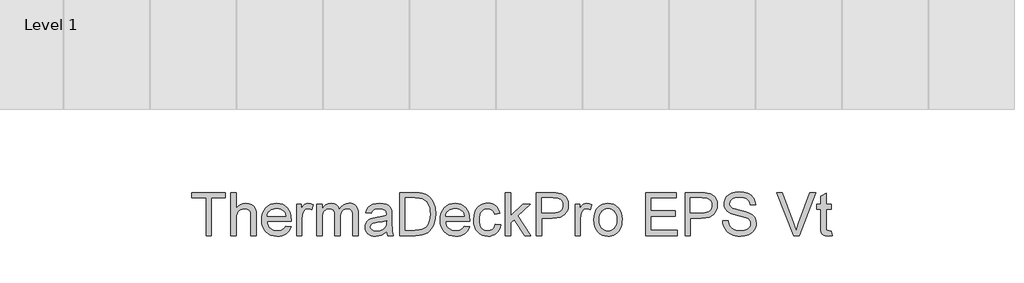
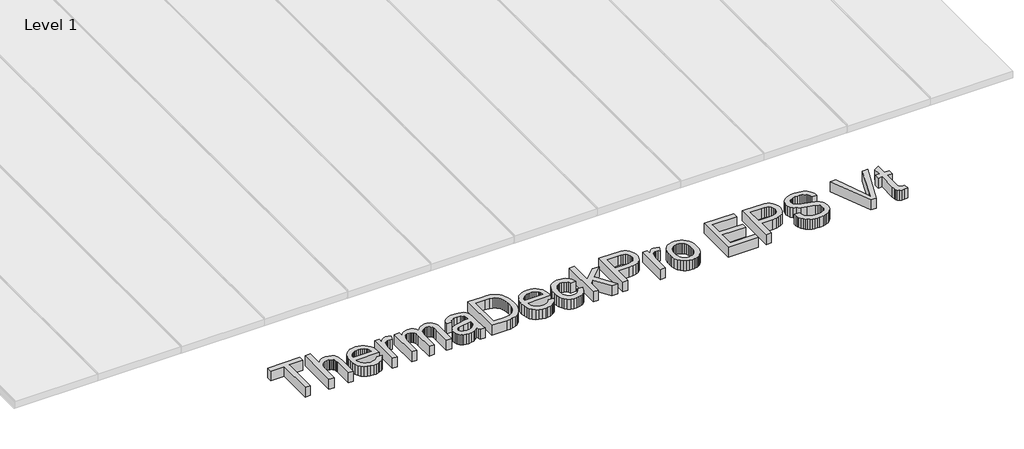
# One storey, part 27 of 27: 1 proxy.
"""IFC4 building model written with IfcOpenShell, lengths in millimetres."""

import ifcopenshell
import ifcopenshell.guid

model = None  # the IFC model being written
_history = None  # IfcOwnerHistory: only IFC2X3 demands one
_inside = {}  # id of a spatial element -> (the spatial element, [elements in it])
_under = {}  # id of a project, library or spatial element -> (it, [spatial elements below it])
_declared = {}  # id of a project -> (the project, [libraries it declares])
_typed = {}  # id of a type object -> (the type object, [elements of that type])
_made_of = {}  # id of a material, layer set ... -> (it, [elements and type objects made of it])


def new_model(schema):
    """Start an empty IFC model of exactly this schema.

    Asked for "IFC4X3", IfcOpenShell would pick the latest addendum, in which some entities
    have other attributes; the version numbers below select the first issue.
    IFC2X3 requires an IfcOwnerHistory on every rooted entity: one is made here for all.
    """
    global model, _history
    if schema == "IFC4X3":
        model = ifcopenshell.file(schema_version=(4, 3, 0, 0))
    else:
        model = ifcopenshell.file(schema=schema)
    _inside.clear()
    _under.clear()
    _declared.clear()
    _typed.clear()
    _made_of.clear()
    _history = None
    if model.schema == "IFC2X3":
        org = make("IfcOrganization", Name="unknown")
        user = make(
            "IfcPersonAndOrganization",
            ThePerson=make("IfcPerson", FamilyName="unknown"),
            TheOrganization=org,
        )
        app = make(
            "IfcApplication",
            ApplicationDeveloper=org,
            Version="unknown",
            ApplicationFullName="unknown",
            ApplicationIdentifier="unknown",
        )
        _history = make(
            "IfcOwnerHistory",
            OwningUser=user,
            OwningApplication=app,
            ChangeAction="ADDED",
            CreationDate=0,
        )
    return model


def make(cls, **values):
    """One entity of the class cls with the attributes given. An attribute that is None is left unset."""
    return model.create_entity(
        cls, **{name: value for name, value in values.items() if value is not None}
    )


def rooted(cls, **values):
    """An entity with a GlobalId (a new one), such as an element, a storey or a relation."""
    return make(cls, GlobalId=ifcopenshell.guid.new(), OwnerHistory=_history, **values)


def si_unit(unit_type, name, prefix=None):
    """IfcSIUnit, for example si_unit("LENGTHUNIT", "METRE", prefix="MILLI")."""
    return make("IfcSIUnit", UnitType=unit_type, Prefix=prefix, Name=name)


def assignment(units):
    """IfcUnitAssignment: the units of a project."""
    return None if units is None else make("IfcUnitAssignment", Units=units)


def point(xyz):
    """IfcCartesianPoint."""
    return None if xyz is None else make("IfcCartesianPoint", Coordinates=xyz)


def direction(xyz):
    """IfcDirection."""
    return None if xyz is None else make("IfcDirection", DirectionRatios=xyz)


def frame(location, z_axis=None, x_axis=None):
    """IfcAxis2Placement3D, a coordinate frame: its origin and axes. An axis left out is left unset."""
    return make(
        "IfcAxis2Placement3D",
        Location=point(location),
        Axis=direction(z_axis),
        RefDirection=direction(x_axis),
    )


def origin():
    """The frame at (0, 0, 0) with its axes left unset."""
    return frame((0.0, 0.0, 0.0))


def origin_with_axes():
    """The frame at (0, 0, 0) with the z axis (0, 0, 1) and the x axis (1, 0, 0) written out."""
    return frame((0.0, 0.0, 0.0), z_axis=(0.0, 0.0, 1.0), x_axis=(1.0, 0.0, 0.0))


def place(relative_to, where):
    """IfcLocalPlacement: puts the frame where relative to a parent placement (None: the world)."""
    return make(
        "IfcLocalPlacement", PlacementRelTo=relative_to, RelativePlacement=where
    )


def context(
    kind, dimensions, precision=None, world=None, true_north=None, identifier=None
):
    """IfcGeometricRepresentationContext, for example the 3D "Model" context."""
    return make(
        "IfcGeometricRepresentationContext",
        ContextIdentifier=identifier,
        ContextType=kind,
        CoordinateSpaceDimension=dimensions,
        Precision=precision,
        WorldCoordinateSystem=world,
        TrueNorth=true_north,
    )


def project(units=None, contexts=None):
    """IfcProject with its units and contexts."""
    return rooted(
        "IfcProject",
        Name="project",
        RepresentationContexts=contexts,
        UnitsInContext=assignment(units),
    )


def spatial(cls, under=None, at=None, **own):
    """A site, building, storey or space (cls), placed at a placement, below another one or the project."""
    s = rooted(cls, ObjectPlacement=at, **own)
    if under is not None:
        _under.setdefault(under.id(), (under, []))[1].append(s)
    return s


def polyline(points):
    """IfcPolyline through the points."""
    return make("IfcPolyline", Points=[point(p) for p in points])


def outline(outer, holes=None, kind="AREA"):
    """IfcArbitraryClosedProfileDef: a profile drawn as a closed curve; with holes, ...WithVoids."""
    if holes is None:
        return make("IfcArbitraryClosedProfileDef", ProfileType=kind, OuterCurve=outer)
    return make(
        "IfcArbitraryProfileDefWithVoids",
        ProfileType=kind,
        OuterCurve=outer,
        InnerCurves=holes,
    )


def extrude(swept, where, along, depth):
    """IfcExtrudedAreaSolid: the profile swept, set in the frame where, extruded along a direction by depth."""
    return make(
        "IfcExtrudedAreaSolid",
        SweptArea=swept,
        Position=where,
        ExtrudedDirection=direction(along),
        Depth=depth,
    )


def shape(context_of_items, identifier, shape_type, items):
    """IfcShapeRepresentation: the items that make up one representation, for example the "Body"."""
    return make(
        "IfcShapeRepresentation",
        ContextOfItems=context_of_items,
        RepresentationIdentifier=identifier,
        RepresentationType=shape_type,
        Items=items,
    )


def made_of(thing, what):
    """Note that an element or type object is made of a material, layer set ...; save() writes the relation."""
    if what is not None:
        _made_of.setdefault(what.id(), (what, []))[1].append(thing)
    return thing


def element(
    cls,
    number,
    at=None,
    inside=None,
    cuts=None,
    type_object=None,
    material=None,
    context=None,
    identifier="Body",
    shape_type=None,
    held_by="IfcProductDefinitionShape",
    body=None,
    shapes=None,
    **own,
):
    """One element of the class cls, such as IfcWall. Its Tag is "e" and its number.

    at: its placement. inside: the storey or other place that contains it. cuts: it is an
    opening in that element (IfcRelVoidsElement). A single representation is given by context,
    identifier, shape_type and body (its items); several are given by shapes. held_by: the class
    of the entity that holds the representations. save() writes the other relations.
    """
    e = rooted(cls, Tag="e%d" % number, ObjectPlacement=at, **own)
    if body is not None:
        shapes = [shape(context, identifier, shape_type, body)]
    if shapes is not None:
        e.Representation = make(held_by, Representations=shapes)
    if inside is not None:
        _inside.setdefault(inside.id(), (inside, []))[1].append(e)
    if cuts is not None:
        rooted(
            "IfcRelVoidsElement", RelatingBuildingElement=cuts, RelatedOpeningElement=e
        )
    if type_object is not None:
        _typed.setdefault(type_object.id(), (type_object, []))[1].append(e)
    return made_of(e, material)


def aggregate(whole, parts):
    """IfcRelAggregates: a whole, such as a stair, and the parts it consists of."""
    return rooted("IfcRelAggregates", RelatingObject=whole, RelatedObjects=parts)


def save(model, path):
    """Write the relations noted so far, then the file.

    IfcRelAggregates (storeys below a building ...), IfcRelContainedInSpatialStructure (elements
    in a storey), IfcRelDefinesByType, IfcRelAssociatesMaterial and IfcRelDeclares: one each for
    every whole, place, type object, material and project.
    """
    for whole, parts in _under.values():
        aggregate(whole, parts)
    for where, things in _inside.values():
        rooted(
            "IfcRelContainedInSpatialStructure",
            RelatedElements=things,
            RelatingStructure=where,
        )
    for kind, things in _typed.values():
        rooted("IfcRelDefinesByType", RelatedObjects=things, RelatingType=kind)
    for what, things in _made_of.values():
        rooted("IfcRelAssociatesMaterial", RelatedObjects=things, RelatingMaterial=what)
    for by, libraries in _declared.values():
        rooted("IfcRelDeclares", RelatingContext=by, RelatedDefinitions=libraries)
    model.write(path)


model = new_model("IFC4")

# Units and contexts
model_context = context("Model", 3, world=origin())
ifc_project = project(units=[si_unit("LENGTHUNIT", "METRE", prefix="MILLI")], contexts=[model_context])

# Site, building, storey
site = spatial("IfcSite", under=ifc_project)
building = spatial("IfcBuilding", under=site)
storey = spatial("IfcBuildingStorey", under=building, Name="Level 1", Elevation=0.0)

# Proxy
placement = place(None, origin())
element("IfcBuildingElementProxy", 1, Name="600mm Arial", ObjectType="600mm Arial", at=placement, inside=storey, context=model_context, shape_type="SweptSolid", body=[
    extrude(outline(polyline([(67474.77699, -15088.4076888), (67474.77699, -14571.4846119), (67280.9308362, -14571.4846119), (67280.9308362, -14497.6384581), (67742.4692977, -14497.6384581), (67742.4692977, -14571.4846119), (67548.6231439, -14571.4846119), (67548.6231439, -15088.4076888), (67474.77699, -15088.4076888)])), origin_with_axes(), (0.0, 0.0, 1.0), 150.0),
    extrude(outline(polyline([(67816.3154516, -15088.4076888), (67816.3154516, -14497.6384581), (67890.1616054, -14497.6384581), (67890.1616054, -14714.8499965), (67917.2860045, -14684.4353331), (67947.74574, -14662.7105734), (67981.5408122, -14649.6757177), (68018.6712208, -14645.3307657), (68063.2745862, -14650.0723523), (68101.6039131, -14664.2971119), (68131.7842016, -14686.8872561), (68151.9404516, -14716.7249965), (68163.2986247, -14757.7225927), (68167.0846824, -14813.7923042), (68167.0846824, -15088.4076888), (68093.2385285, -15088.4076888), (68093.2385285, -14821.436535), (68091.7691775, -14796.5026407), (68087.3611247, -14775.2105734), (68080.0143699, -14757.5603331), (68069.7289131, -14743.5519196), (68056.7481439, -14732.8878571), (68041.3154516, -14725.2706696), (68023.4308362, -14720.7003571), (68003.0942977, -14719.1769196), (67971.886365, -14723.2874965), (67942.58949, -14735.6192273), (67918.3226631, -14754.9822081), (67902.2048747, -14780.186535), (67893.1724227, -14813.6841311), (67890.1616054, -14857.9269196), (67890.1616054, -15088.4076888), (67816.3154516, -15088.4076888)])), origin_with_axes(), (0.0, 0.0, 1.0), 150.0),
    extrude(outline(polyline([(68572.3731439, -14959.1769196), (68644.77699, -14968.4076888), (68633.675728, -14997.4070879), (68618.6892497, -15022.9629773), (68599.8175549, -15045.0753571), (68577.0606439, -15063.7442273), (68550.6528915, -15078.5729532), (68520.8286727, -15089.1649004), (68487.5879876, -15095.5200686), (68450.9308362, -15097.6384581), (68405.1105237, -15093.9831095), (68364.2842016, -15083.0170638), (68328.4518699, -15064.740321), (68297.6135285, -15039.1528811), (68272.8148506, -15006.9668835), (68255.1015093, -14968.8944677), (68244.4735045, -14924.9356335), (68240.9308362, -14875.0903811), (68244.5095622, -14823.5549244), (68255.24574, -14778.1312465), (68273.1393699, -14738.8193475), (68298.1904516, -14705.6192273), (68328.9476631, -14679.2430254), (68363.9596824, -14660.4028811), (68403.2265093, -14649.0987946), (68446.7481439, -14645.3307657), (68488.8680357, -14649.0897802), (68526.9584804, -14660.3668234), (68561.019478, -14679.1618956), (68591.0510285, -14705.4749965), (68615.5657521, -14738.6030013), (68633.0762689, -14777.842785), (68643.582579, -14823.1943475), (68647.0846824, -14874.6576888), (68646.65199, -14894.561535), (68314.77699, -14894.561535), (68319.0543338, -14924.029684), (68327.559442, -14949.8379773), (68340.2923146, -14971.9864148), (68357.2529516, -14990.4749965), (68377.503853, -15005.0513186), (68400.1075189, -15015.4629773), (68425.0639492, -15021.7099725), (68452.3731439, -15023.7923042), (68491.6760285, -15019.9341311), (68524.77699, -15008.3596119), (68551.6760285, -14988.3475927), (68572.3731439, -14959.1769196)]), holes=[polyline([(68314.77699, -14820.7153811), (68573.2385285, -14820.7153811), (68563.2505477, -14781.7009581), (68554.6598025, -14766.35841), (68543.6712208, -14753.7923042), (68523.5329997, -14738.6480734), (68500.6183362, -14727.8307657), (68474.9272304, -14721.3403811), (68446.4596824, -14719.1769196), (68420.4936367, -14720.9031816), (68396.6820381, -14726.0819677), (68375.0248867, -14734.7132778), (68355.5221824, -14746.7971119), (68339.1564973, -14761.7745758), (68326.9104035, -14779.0867754), (68318.7839011, -14798.7337105), (68314.77699, -14820.7153811)])]), origin_with_axes(), (0.0, 0.0, 1.0), 150.0),
    extrude(outline(polyline([(68720.9308362, -15088.4076888), (68720.9308362, -14654.561535), (68785.5462208, -14654.561535), (68785.5462208, -14718.7442273), (68809.4164131, -14681.5326888), (68831.4116054, -14659.6096119), (68853.4789131, -14648.9004773), (68877.5654516, -14645.3307657), (68914.3442977, -14651.0278811), (68951.700067, -14668.1192273), (68927.0366054, -14734.3211504), (68901.075067, -14722.9629773), (68875.1135285, -14719.1769196), (68853.0642497, -14722.8187465), (68833.3587208, -14733.7442273), (68817.4392497, -14751.124035), (68806.7481439, -14774.1288427), (68797.7697785, -14815.3788427), (68794.77699, -14860.3788427), (68794.77699, -15088.4076888), (68720.9308362, -15088.4076888)])), origin_with_axes(), (0.0, 0.0, 1.0), 150.0),
    extrude(outline(polyline([(68997.8539131, -15088.4076888), (68997.8539131, -14654.561535), (69071.700067, -14654.561535), (69071.700067, -14725.9557657), (69093.9116054, -14693.1612946), (69122.4692977, -14667.4701888), (69156.3995862, -14650.8656215), (69194.7289131, -14645.3307657), (69235.7986247, -14650.9737946), (69253.277591, -14658.0275806), (69268.7192977, -14667.9028811), (69293.3106439, -14695.0002369), (69309.3923747, -14731.1480734), (69336.309442, -14693.6030013), (69367.012567, -14666.7850927), (69401.5017497, -14650.6943475), (69439.77699, -14645.3307657), (69469.3397905, -14647.5618355), (69495.2878074, -14654.2550446), (69517.6210405, -14665.4103931), (69536.33949, -14681.0278811), (69551.1366655, -14701.287797), (69561.7060766, -14726.3704292), (69568.0477232, -14756.2757778), (69570.1616054, -14791.0038427), (69570.1616054, -15088.4076888), (69496.3154516, -15088.4076888), (69496.3154516, -14822.7346119), (69494.6027112, -14785.9016792), (69489.46449, -14761.0759581), (69479.8370862, -14744.0747561), (69464.6567977, -14730.7153811), (69445.1315574, -14722.061535), (69422.4692977, -14719.1769196), (69401.5423146, -14721.0248763), (69382.4632881, -14726.5687465), (69365.2322184, -14735.8085302), (69349.8491054, -14748.7442273), (69337.1973626, -14765.7544436), (69328.1604035, -14787.217785), (69322.738228, -14813.1342513), (69320.9308362, -14843.5038427), (69320.9308362, -15088.4076888), (69247.0846824, -15088.4076888), (69247.0846824, -14814.5134581), (69242.8118458, -14772.7586504), (69229.9933362, -14742.9749965), (69220.081978, -14732.5633379), (69207.4392497, -14725.1264388), (69192.0651511, -14720.6642994), (69173.9596824, -14719.1769196), (69145.5101631, -14723.1432657), (69119.2962208, -14735.0423042), (69097.6616054, -14754.5855734), (69082.950067, -14781.4846119), (69074.512567, -14818.8043234), (69071.700067, -14869.6096119), (69071.700067, -15088.4076888), (68997.8539131, -15088.4076888)])), origin_with_axes(), (0.0, 0.0, 1.0), 150.0),
    extrude(outline(polyline([(69957.8539131, -15033.0230734), (69922.5714612, -15063.2754773), (69886.2433362, -15083.0711504), (69848.0402112, -15093.9966311), (69807.1327593, -15097.6384581), (69774.2526511, -15095.4479532), (69745.4200189, -15088.8764388), (69720.6348626, -15077.9239148), (69699.8971824, -15062.5903811), (69683.5224828, -15043.8493956), (69671.8262689, -15022.6745157), (69664.8085405, -14999.0657417), (69662.4692977, -14973.0230734), (69666.0029516, -14942.4100927), (69676.6039131, -14914.6096119), (69692.9560766, -14890.811535), (69713.7433362, -14872.2057657), (69738.1724227, -14858.1432657), (69765.450067, -14847.9749965), (69829.3442977, -14836.8692273), (69904.8491054, -14825.186535), (69957.4212208, -14811.4846119), (69957.8539131, -14795.0423042), (69952.7697785, -14762.0855734), (69946.4146102, -14749.8800446), (69937.5173747, -14740.5230734), (69922.1387689, -14731.1841311), (69903.4067977, -14724.5134581), (69855.8827593, -14719.1769196), (69811.8923747, -14722.7286023), (69781.1712208, -14733.3836504), (69760.2217016, -14753.0891792), (69745.5462208, -14783.7923042), (69671.700067, -14774.561535), (69684.5185766, -14734.1769196), (69703.6471824, -14702.4461504), (69730.87074, -14678.1793234), (69767.9741054, -14660.186535), (69813.3527112, -14649.0447081), (69865.40199, -14645.3307657), (69915.323865, -14648.6120157), (69954.8971824, -14658.4557657), (69984.7349227, -14673.2574484), (70005.450067, -14691.4124965), (70019.1880477, -14713.85841), (70028.0942977, -14741.5326888), (70031.700067, -14806.1480734), (70031.700067, -14898.0230734), (70035.450067, -15026.3163427), (70041.0029516, -15058.0290831), (70050.1616054, -15088.4076888), (69976.3154516, -15088.4076888), (69964.4885285, -15062.7346119), (69957.8539131, -15033.0230734)]), holes=[polyline([(69957.8539131, -14885.3307657), (69908.2385285, -14897.6264388), (69838.7192977, -14907.9749965), (69775.1856439, -14919.9461504), (69758.653192, -14928.1312465), (69746.4116054, -14939.4173042), (69738.83949, -14952.9389388), (69736.3154516, -14967.8307657), (69741.8142497, -14989.7899004), (69758.3106439, -15007.7826888), (69785.4440574, -15019.7899004), (69822.8539131, -15023.7923042), (69862.5173747, -15019.3752369), (69897.5654516, -15006.124035), (69925.9789131, -14986.5987946), (69945.7385285, -14963.3596119), (69954.5005477, -14939.4173042), (69957.4212208, -14906.2442273), (69957.8539131, -14885.3307657)])]), origin_with_axes(), (0.0, 0.0, 1.0), 150.0),
    extrude(outline(polyline([(70142.4692977, -15088.4076888), (70142.4692977, -14497.6384581), (70346.2673747, -14497.6384581), (70407.168817, -14499.7658619), (70451.700067, -14506.1480734), (70498.7914131, -14522.5543234), (70538.52699, -14548.4076888), (70560.4230237, -14569.5374965), (70579.3803554, -14593.4076888), (70595.3989852, -14620.0182657), (70608.4789131, -14649.3692273), (70618.6381679, -14681.1901407), (70625.8947785, -14715.2105734), (70631.700067, -14789.8499965), (70627.7697785, -14853.2574484), (70615.9789131, -14909.0567273), (70598.0221824, -14956.5627369), (70575.5942977, -14995.0903811), (70549.77699, -15025.5050446), (70521.65199, -15048.6721119), (70489.3623266, -15065.8536023), (70451.0510285, -15078.311535), (70406.6459804, -15085.8836504), (70356.075067, -15088.4076888), (70142.4692977, -15088.4076888)]), holes=[polyline([(70216.3154516, -15014.561535), (70346.9885285, -15014.561535), (70401.0390093, -15011.8932657), (70442.0366054, -15003.8884581), (70472.9741054, -14991.0158619), (70496.8442977, -14973.7442273), (70522.4993458, -14941.7790831), (70541.7721824, -14900.4028811), (70553.8334804, -14849.4353331), (70557.8539131, -14788.6961504), (70555.8842617, -14745.8235542), (70549.9753074, -14708.2153811), (70540.1270501, -14675.8716311), (70526.33949, -14648.7923042), (70509.7304155, -14626.3644196), (70491.417615, -14607.9749965), (70471.4010886, -14593.624035), (70449.6808362, -14583.311535), (70407.2048747, -14574.4413427), (70344.9692977, -14571.4846119), (70216.3154516, -14571.4846119), (70216.3154516, -15014.561535)])]), origin_with_axes(), (0.0, 0.0, 1.0), 150.0),
    extrude(outline(polyline([(71027.7577593, -14959.1769196), (71100.1616054, -14968.4076888), (71089.0603434, -14997.4070879), (71074.073865, -15022.9629773), (71055.2021703, -15045.0753571), (71032.4452593, -15063.7442273), (71006.0375069, -15078.5729532), (70976.2132881, -15089.1649004), (70942.972603, -15095.5200686), (70906.3154516, -15097.6384581), (70860.4951391, -15093.9831095), (70819.668817, -15083.0170638), (70783.8364852, -15064.740321), (70752.9981439, -15039.1528811), (70728.199466, -15006.9668835), (70710.4861247, -14968.8944677), (70699.8581199, -14924.9356335), (70696.3154516, -14875.0903811), (70699.8941775, -14823.5549244), (70710.6303554, -14778.1312465), (70728.5239852, -14738.8193475), (70753.575067, -14705.6192273), (70784.3322785, -14679.2430254), (70819.3442977, -14660.4028811), (70858.6111247, -14649.0987946), (70902.1327593, -14645.3307657), (70944.2526511, -14649.0897802), (70982.3430958, -14660.3668234), (71016.4040934, -14679.1618956), (71046.4356439, -14705.4749965), (71070.9503674, -14738.6030013), (71088.4608843, -14777.842785), (71098.9671944, -14823.1943475), (71102.4692977, -14874.6576888), (71102.0366054, -14894.561535), (70770.1616054, -14894.561535), (70774.4389492, -14924.029684), (70782.9440574, -14949.8379773), (70795.6769299, -14971.9864148), (70812.637567, -14990.4749965), (70832.8884684, -15005.0513186), (70855.4921343, -15015.4629773), (70880.4485646, -15021.7099725), (70907.7577593, -15023.7923042), (70947.0606439, -15019.9341311), (70980.1616054, -15008.3596119), (71007.0606439, -14988.3475927), (71027.7577593, -14959.1769196)]), holes=[polyline([(70770.1616054, -14820.7153811), (71028.6231439, -14820.7153811), (71018.6351631, -14781.7009581), (71010.0444179, -14766.35841), (70999.0558362, -14753.7923042), (70978.917615, -14738.6480734), (70956.0029516, -14727.8307657), (70930.3118458, -14721.3403811), (70901.8442977, -14719.1769196), (70875.8782521, -14720.9031816), (70852.0666535, -14726.0819677), (70830.4095021, -14734.7132778), (70810.9067977, -14746.7971119), (70794.5411126, -14761.7745758), (70782.2950189, -14779.0867754), (70774.1685165, -14798.7337105), (70770.1616054, -14820.7153811)])]), origin_with_axes(), (0.0, 0.0, 1.0), 150.0),
    extrude(outline(polyline([(71453.2385285, -14931.4846119), (71527.0846824, -14940.7153811), (71519.0528314, -14975.5606335), (71506.49574, -15006.3944677), (71489.4134083, -15033.2168835), (71467.8058362, -15056.0278811), (71442.5834804, -15074.2325085), (71414.6567977, -15087.2358138), (71384.0257881, -15095.037797), (71350.6904516, -15097.6384581), (71309.2736848, -15094.0101528), (71272.1387689, -15083.1252369), (71239.285704, -15064.9837105), (71210.71449, -15039.5855734), (71187.5879876, -15007.4085903), (71171.0690574, -14968.9305254), (71161.1576992, -14924.1513787), (71157.8539131, -14873.0711504), (71163.496942, -14807.3560061), (71170.550728, -14777.7841912), (71180.4260285, -14750.4028811), (71193.1904516, -14725.7619556), (71208.9116054, -14704.4112946), (71227.58949, -14686.350898), (71249.2241054, -14671.5807657), (71272.8373867, -14660.0963907), (71297.4512689, -14651.8932657), (71323.0657521, -14646.9713907), (71349.6808362, -14645.3307657), (71382.4437569, -14647.5843715), (71412.0786727, -14654.3451888), (71438.5855838, -14665.6132177), (71461.96449, -14681.3884581), (71481.8187569, -14701.3103331), (71497.7517497, -14725.0182657), (71509.7634684, -14752.5122561), (71517.8539131, -14783.7923042), (71444.0077593, -14793.0230734), (71430.6123266, -14760.8055254), (71409.7529516, -14737.7105734), (71382.5834804, -14723.8103331), (71350.2577593, -14719.1769196), (71325.1661126, -14721.4575686), (71302.5354035, -14728.2995157), (71282.3656319, -14739.7027609), (71264.6567977, -14755.6673042), (71250.238228, -14776.5627369), (71239.9392497, -14802.7586504), (71233.7598626, -14834.2550446), (71231.700067, -14871.0519196), (71233.7147905, -14908.4031816), (71239.7589612, -14940.26466), (71249.832579, -14966.6363547), (71263.9356439, -14987.5182657), (71281.2929155, -15003.3881576), (71301.1291535, -15014.7237946), (71323.4443578, -15021.5251768), (71348.2385285, -15023.7923042), (71386.4777112, -15018.1312465), (71403.0146703, -15011.0549244), (71417.8298747, -15001.1480734), (71430.5086607, -14988.3025206), (71440.636365, -14972.4100927), (71448.2129876, -14953.4707898), (71453.2385285, -14931.4846119)])), origin_with_axes(), (0.0, 0.0, 1.0), 150.0),
    extrude(outline(polyline([(71591.700067, -15088.4076888), (71591.700067, -14497.6384581), (71665.5462208, -14497.6384581), (71665.5462208, -14815.0903811), (71831.1231439, -14654.561535), (71933.2385285, -14654.561535), (71765.6423747, -14817.1096119), (71942.4692977, -15088.4076888), (71856.2192977, -15088.4076888), (71712.7096824, -14868.4557657), (71665.5462208, -14914.1769196), (71665.5462208, -15088.4076888), (71591.700067, -15088.4076888)])), origin_with_axes(), (0.0, 0.0, 1.0), 150.0),
    extrude(outline(polyline([(72016.3154516, -15088.4076888), (72016.3154516, -14497.6384581), (72235.2577593, -14497.6384581), (72286.2433362, -14499.0447081), (72323.52699, -14503.2634581), (72362.8839612, -14513.7742754), (72395.2817977, -14530.8836504), (72421.3695381, -14555.3668234), (72441.7962208, -14587.999035), (72454.9933362, -14626.4906215), (72459.3923747, -14668.5519196), (72456.4221223, -14704.8169436), (72447.511365, -14738.1793234), (72432.660103, -14768.639059), (72411.8683362, -14796.1961504), (72383.3241655, -14819.0386984), (72345.215692, -14835.3548042), (72297.5429155, -14845.1444677), (72240.3058362, -14848.4076888), (72090.1616054, -14848.4076888), (72090.1616054, -15088.4076888), (72016.3154516, -15088.4076888)]), holes=[polyline([(72090.1616054, -14774.561535), (72244.6327593, -14774.561535), (72280.1495862, -14772.8668234), (72310.1135285, -14767.7826888), (72334.5245862, -14759.3091311), (72353.3827593, -14747.4461504), (72367.4542737, -14732.5092513), (72377.5053554, -14714.8139388), (72383.5360045, -14694.3602129), (72385.5462208, -14671.1480734), (72380.8046343, -14637.9749965), (72366.5798747, -14609.9942273), (72344.6387689, -14588.936535), (72316.7481439, -14576.5326888), (72288.262567, -14572.7466311), (72242.90199, -14571.4846119), (72090.1616054, -14571.4846119), (72090.1616054, -14774.561535)])]), origin_with_axes(), (0.0, 0.0, 1.0), 150.0),
    extrude(outline(polyline([(72551.700067, -15088.4076888), (72551.700067, -14654.561535), (72616.3154516, -14654.561535), (72616.3154516, -14718.7442273), (72640.1856439, -14681.5326888), (72662.1808362, -14659.6096119), (72684.2481439, -14648.9004773), (72708.3346824, -14645.3307657), (72745.1135285, -14651.0278811), (72782.4692977, -14668.1192273), (72757.8058362, -14734.3211504), (72731.8442977, -14722.9629773), (72705.8827593, -14719.1769196), (72683.8334804, -14722.8187465), (72664.1279516, -14733.7442273), (72648.2084804, -14751.124035), (72637.5173747, -14774.1288427), (72628.5390093, -14815.3788427), (72625.5462208, -14860.3788427), (72625.5462208, -15088.4076888), (72551.700067, -15088.4076888)])), origin_with_axes(), (0.0, 0.0, 1.0), 150.0),
    extrude(outline(polyline([(72810.1616054, -14871.4846119), (72814.1549949, -14815.2977129), (72826.1351631, -14766.8812465), (72846.1021102, -14726.2352129), (72874.0558362, -14693.3596119), (72902.198865, -14672.3469917), (72933.262567, -14657.3379773), (72967.246942, -14648.3325686), (73004.15199, -14645.3307657), (73044.8926751, -14648.9861143), (73081.730115, -14659.95216), (73114.6643098, -14678.2289028), (73143.6952593, -14703.8163427), (73167.3896703, -14735.8490951), (73184.3142497, -14773.4617754), (73194.4689973, -14816.6543835), (73197.8539131, -14865.4269196), (73196.3575189, -14904.9551648), (73191.8683362, -14940.030285), (73184.386365, -14970.6522802), (73173.9116054, -14996.8211504), (73160.5747665, -15019.4248162), (73144.5065574, -15039.3511984), (73125.706978, -15056.600297), (73104.1760285, -15071.1721119), (73080.7520501, -15082.7511383), (73056.2733843, -15091.0218715), (73030.7400309, -15095.9843114), (73004.15199, -15097.6384581), (72962.816353, -15093.9966311), (72925.636365, -15083.0711504), (72892.6120261, -15064.8620157), (72863.7433362, -15039.3692273), (72840.301329, -15007.0254773), (72823.5570381, -14968.2634581), (72813.5104636, -14923.0831696), (72810.1616054, -14871.4846119)]), holes=[polyline([(72884.0077593, -14871.3403811), (72886.1441775, -14907.1591912), (72892.5534324, -14938.1733138), (72903.2355237, -14964.3827489), (72918.1904516, -14985.7874965), (72936.3815574, -15002.4145999), (72956.7721824, -15014.2911023), (72979.3623266, -15021.4170037), (73004.15199, -15023.7923042), (73028.8154516, -15021.4034821), (73051.3154516, -15014.2370157), (73071.65199, -15002.2929052), (73089.825067, -14985.5711504), (73104.7799949, -14963.9545638), (73115.4620862, -14937.3259581), (73121.871341, -14905.6853331), (73124.0077593, -14869.0326888), (73121.8578194, -14834.349696), (73115.4079997, -14804.1468715), (73104.6583001, -14778.4242153), (73089.6087208, -14757.1817273), (73071.3680357, -14740.5546239), (73051.0450189, -14728.6781215), (73028.6396703, -14721.5522201), (73004.15199, -14719.1769196), (72979.3623266, -14721.5432056), (72956.7721824, -14728.6420638), (72936.3815574, -14740.4734941), (72918.1904516, -14757.0374965), (72903.2355237, -14778.3791431), (72892.5534324, -14804.5435061), (72886.1441775, -14835.5305855), (72884.0077593, -14871.3403811)])]), origin_with_axes(), (0.0, 0.0, 1.0), 150.0),
    extrude(outline(polyline([(73520.9308362, -15088.4076888), (73520.9308362, -14497.6384581), (73945.5462208, -14497.6384581), (73945.5462208, -14571.4846119), (73594.77699, -14571.4846119), (73594.77699, -14746.8692273), (73927.0846824, -14746.8692273), (73927.0846824, -14820.7153811), (73594.77699, -14820.7153811), (73594.77699, -15014.561535), (73954.77699, -15014.561535), (73954.77699, -15088.4076888), (73520.9308362, -15088.4076888)])), origin_with_axes(), (0.0, 0.0, 1.0), 150.0),
    extrude(outline(polyline([(74065.5462208, -15088.4076888), (74065.5462208, -14497.6384581), (74284.4885285, -14497.6384581), (74335.4741054, -14499.0447081), (74372.7577593, -14503.2634581), (74412.1147304, -14513.7742754), (74444.512567, -14530.8836504), (74470.6003074, -14555.3668234), (74491.02699, -14587.999035), (74504.2241054, -14626.4906215), (74508.6231439, -14668.5519196), (74505.6528915, -14704.8169436), (74496.7421343, -14738.1793234), (74481.8908723, -14768.639059), (74461.0991054, -14796.1961504), (74432.5549348, -14819.0386984), (74394.4464612, -14835.3548042), (74346.7736848, -14845.1444677), (74289.5366054, -14848.4076888), (74139.3923747, -14848.4076888), (74139.3923747, -15088.4076888), (74065.5462208, -15088.4076888)]), holes=[polyline([(74139.3923747, -14774.561535), (74293.8635285, -14774.561535), (74329.3803554, -14772.8668234), (74359.3442977, -14767.7826888), (74383.7553554, -14759.3091311), (74402.6135285, -14747.4461504), (74416.6850429, -14732.5092513), (74426.7361247, -14714.8139388), (74432.7667737, -14694.3602129), (74434.77699, -14671.1480734), (74430.0354035, -14637.9749965), (74415.8106439, -14609.9942273), (74393.8695381, -14588.936535), (74365.9789131, -14576.5326888), (74337.4933362, -14572.7466311), (74292.1327593, -14571.4846119), (74139.3923747, -14571.4846119), (74139.3923747, -14774.561535)])]), origin_with_axes(), (0.0, 0.0, 1.0), 150.0),
    extrude(outline(polyline([(74582.4692977, -14885.3307657), (74656.3154516, -14885.3307657), (74664.7890093, -14926.3103331), (74680.1135285, -14959.249035), (74704.0197785, -14985.3908619), (74738.2385285, -15005.9798042), (74780.0654516, -15019.3391792), (74826.7962208, -15023.7923042), (74867.9380477, -15020.42091), (74903.9596824, -15010.3067273), (74933.1483843, -14994.2971119), (74953.7914131, -14973.2394196), (74966.0690574, -14949.0627369), (74970.1616054, -14923.6961504), (74967.0967016, -14898.9786023), (74957.90199, -14877.6144196), (74939.2241054, -14859.3872561), (74907.7096824, -14844.0807657), (74800.1856439, -14815.8836504), (74729.6027112, -14797.2237946), (74684.4404516, -14779.4653811), (74647.6796343, -14754.6216311), (74621.6279516, -14724.5134581), (74606.105115, -14689.7899004), (74600.9308362, -14651.0999965), (74602.5308963, -14629.1093114), (74607.3310766, -14607.8487946), (74615.3313771, -14587.318446), (74626.5317977, -14567.5182657), (74640.8061367, -14549.2550446), (74658.028192, -14533.3355734), (74678.1979636, -14519.7598523), (74701.3154516, -14508.5278811), (74753.2745862, -14493.4377369), (74810.7866054, -14488.4076888), (74873.0942977, -14493.6721119), (74927.6135285, -14509.4653811), (74951.465692, -14521.2292032), (74972.3971824, -14535.4629773), (74990.4079997, -14552.1667032), (75005.4981439, -14571.3403811), (75017.5504275, -14592.4251167), (75026.4476631, -14614.8620157), (75032.1898506, -14638.6510782), (75034.77699, -14663.7923042), (74960.9308362, -14663.7923042), (74955.9909324, -14640.2286023), (74947.3731439, -14619.7298042), (74935.0774708, -14602.29591), (74919.1039131, -14587.9269196), (74899.1549949, -14576.6949484), (74874.93324, -14568.6721119), (74846.4386487, -14563.85841), (74813.6712208, -14562.2538427), (74779.8581199, -14563.8403811), (74750.9668939, -14568.5999965), (74726.9975429, -14576.5326888), (74707.950067, -14587.6384581), (74693.4368458, -14600.9888186), (74683.0702593, -14615.655285), (74676.8503074, -14631.6378571), (74674.77699, -14648.936535), (74680.6543939, -14677.3139388), (74698.2866054, -14700.1384581), (74714.4765093, -14710.2886984), (74739.9692977, -14720.5471119), (74818.8635285, -14741.3884581), (74900.2817977, -14761.1841311), (74949.5366054, -14778.4557657), (74991.6339612, -14805.2466311), (75007.9095021, -14820.9948282), (75021.0029516, -14838.311535), (75031.0675549, -14857.1066071), (75038.2565574, -14877.2899004), (75044.0077593, -14921.8211504), (75042.3536126, -14944.9206095), (75037.3911727, -14967.3439869), (75029.1204396, -14989.0912826), (75017.5414131, -15010.1624965), (75002.8569179, -15029.7418234), (74985.2697785, -15047.0134581), (74964.7799949, -15061.9774004), (74941.387567, -15074.6336504), (74915.7730838, -15084.6982537), (74888.6171343, -15091.8872561), (74829.6808362, -15097.6384581), (74791.9058963, -15096.0879773), (74757.3310766, -15091.436535), (74725.9563771, -15083.6841311), (74697.7817977, -15072.8307657), (74672.6360646, -15058.85841), (74650.3479035, -15041.749035), (74630.9173146, -15021.5026407), (74614.3442977, -14998.1192273), (74600.9939372, -14972.3560061), (74591.231317, -14944.9701888), (74585.0564372, -14915.9617754), (74582.4692977, -14885.3307657)])), origin_with_axes(), (0.0, 0.0, 1.0), 150.0),
    extrude(outline(polyline([(75560.0654516, -15088.4076888), (75324.9692977, -14497.6384581), (75404.0077593, -14497.6384581), (75561.3635285, -14923.2634581), (75593.2385285, -15019.1769196), (75624.6808362, -14923.2634581), (75782.4692977, -14497.6384581), (75861.5077593, -14497.6384581), (75636.3635285, -15088.4076888), (75560.0654516, -15088.4076888)])), origin_with_axes(), (0.0, 0.0, 1.0), 150.0),
    extrude(outline(polyline([(76077.8539131, -15026.8211504), (76087.0846824, -15090.5711504), (76031.8442977, -15097.6384581), (75996.3995862, -15094.5735542), (75969.9692977, -15085.3788427), (75951.2914131, -15071.2081696), (75939.1039131, -15053.2153811), (75932.3971824, -15022.3139388), (75930.1616054, -14969.4173042), (75930.1616054, -14728.4076888), (75874.77699, -14728.4076888), (75874.77699, -14654.561535), (75930.1616054, -14654.561535), (75930.1616054, -14549.1288427), (76004.0077593, -14505.7153811), (76004.0077593, -14654.561535), (76077.8539131, -14654.561535), (76077.8539131, -14728.4076888), (76004.0077593, -14728.4076888), (76004.0077593, -14967.2538427), (76007.90199, -15005.3307657), (76020.5221824, -15018.8163427), (76031.1772304, -15022.5483138), (76045.6904516, -15023.7923042), (76077.8539131, -15026.8211504)])), origin_with_axes(), (0.0, 0.0, 1.0), 150.0),
])

save(model, "model.ifc")
